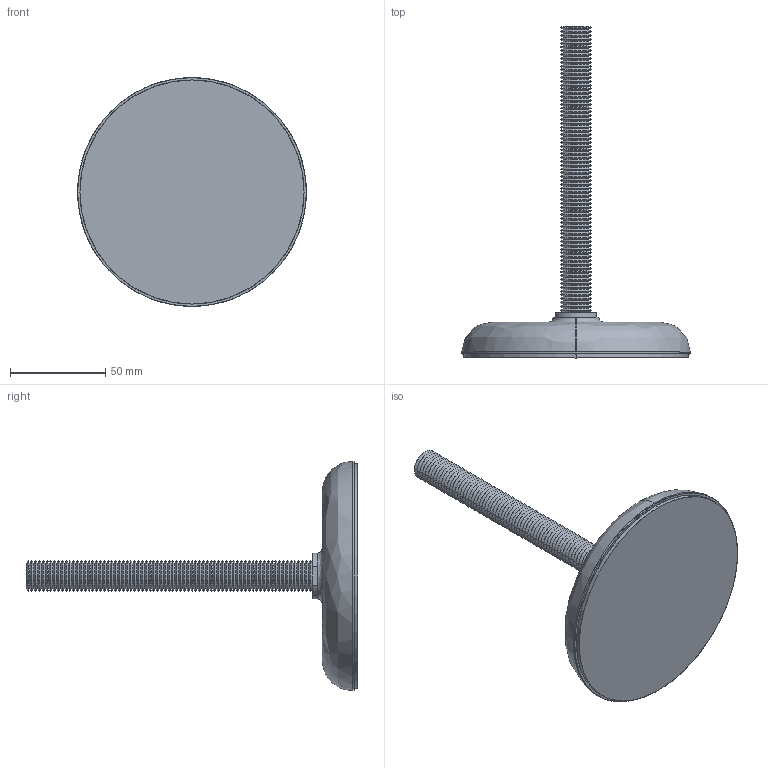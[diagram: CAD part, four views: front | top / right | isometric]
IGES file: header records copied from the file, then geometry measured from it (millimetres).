
Start section: SolidWorks IGES file using analytic representation for surfaces
Global section: file name: C:\Documents and Settings\IANO\Desktop\Temp File\Process pending\EXISTING\34780_v2\34780_v2_20170626_IGES\34780.W0162.igs; native system: SolidWorks 2009; preprocessor: SolidWorks 2009; author: IANO; date: 170626.122539; units: millimetre
Bounding box: 120 x 174 x 120 mm (x, y, z)
Surface area: 90323.6 mm2 (no closed solid volume)
Topology: 0 solids, 0 shells, 372 faces, 2434 edges, 2434 vertices
Faces by surface type: revolution 344, bspline 28
